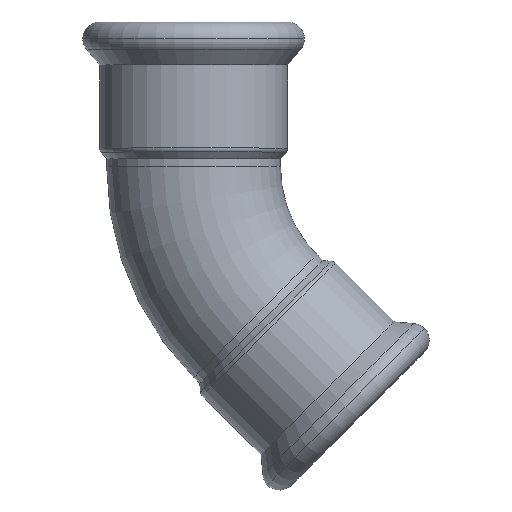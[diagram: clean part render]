
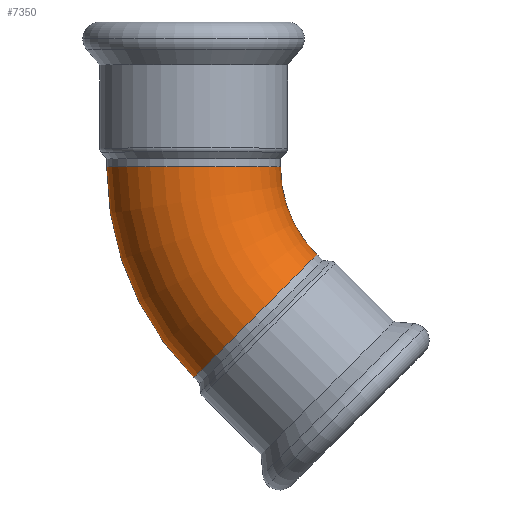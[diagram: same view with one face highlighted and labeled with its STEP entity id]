
A CAD part, top view. The second image highlights one B-rep face of the part: STEP entity #7350.
In plain terms, the highlighted toroidal (fillet/blend) face has major radius 51 mm and minor radius 21 mm.
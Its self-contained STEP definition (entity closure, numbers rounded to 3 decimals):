
#500=CARTESIAN_POINT('',(-50.154,195.156,0.));
#510=DIRECTION('',(0.,-1.,0.));
#520=DIRECTION('',(-1.,0.,0.));
#530=AXIS2_PLACEMENT_3D('',#500,#510,#520);
#540=CIRCLE('',#530,21.);
#550=CARTESIAN_POINT('',(-50.154,195.156,21.));
#560=VERTEX_POINT('',#550);
#570=CARTESIAN_POINT('',(-71.154,195.156,0.));
#580=VERTEX_POINT('',#570);
#590=EDGE_CURVE('',#560,#580,#540,.T.);
#820=CARTESIAN_POINT('',(-29.154,195.156,
0.));
#830=VERTEX_POINT('',#820);
#860=EDGE_CURVE('',#830,#560,#540,.T.);
#5910=CARTESIAN_POINT('',(-20.367,173.942,
0.));
#5920=VERTEX_POINT('',#5910);
#6000=CARTESIAN_POINT('',(-50.065,144.244,0.));
#6010=VERTEX_POINT('',#6000);
#6040=CARTESIAN_POINT('',(-35.216,159.093,0.));
#6050=DIRECTION('',(0.707,-0.707,0.));
#6060=DIRECTION('',(-0.707,-0.707,0.));
#6070=AXIS2_PLACEMENT_3D('',#6040,#6050,#6060);
#6080=CIRCLE('',#6070,21.);
#6090=CARTESIAN_POINT('',(-35.216,159.093,21.));
#6100=VERTEX_POINT('',#6090);
#6110=EDGE_CURVE('',#6100,#6010,#6080,.T.);
#6130=EDGE_CURVE('',#5920,#6100,#6080,.T.);
#7100=CARTESIAN_POINT('',(0.846,195.156,0.));
#7110=DIRECTION('',(0.,0.,1.));
#7120=DIRECTION('',(-1.,0.,0.));
#7130=AXIS2_PLACEMENT_3D('',#7100,#7110,#7120);
#7140=TOROIDAL_SURFACE('',#7130,51.,21.);
#7150=ORIENTED_EDGE('',*,*,#6110,.F.);
#7160=CARTESIAN_POINT('',(0.846,195.156,
0.));
#7170=DIRECTION('',(0.,0.,1.));
#7180=DIRECTION('',(-1.,0.,0.));
#7190=AXIS2_PLACEMENT_3D('',#7160,#7170,#7180);
#7200=CIRCLE('',#7190,72.);
#7210=EDGE_CURVE('',#580,#6010,#7200,.T.);
#7220=ORIENTED_EDGE('',*,*,#7210,.T.);
#7230=ORIENTED_EDGE('',*,*,#590,.T.);
#7240=ORIENTED_EDGE('',*,*,#860,.T.);
#7250=CARTESIAN_POINT('',(0.846,195.156,
0.));
#7260=DIRECTION('',(0.,0.,1.));
#7270=DIRECTION('',(-1.,0.,0.));
#7280=AXIS2_PLACEMENT_3D('',#7250,#7260,#7270);
#7290=CIRCLE('',#7280,30.);
#7300=EDGE_CURVE('',#830,#5920,#7290,.T.);
#7310=ORIENTED_EDGE('',*,*,#7300,.F.);
#7320=ORIENTED_EDGE('',*,*,#6130,.F.);
#7330=EDGE_LOOP('',(#7320,#7310,#7240,#7230,#7220,#7150));
#7340=FACE_OUTER_BOUND('',#7330,.T.);
#7350=ADVANCED_FACE('',(#7340),#7140,.T.);
